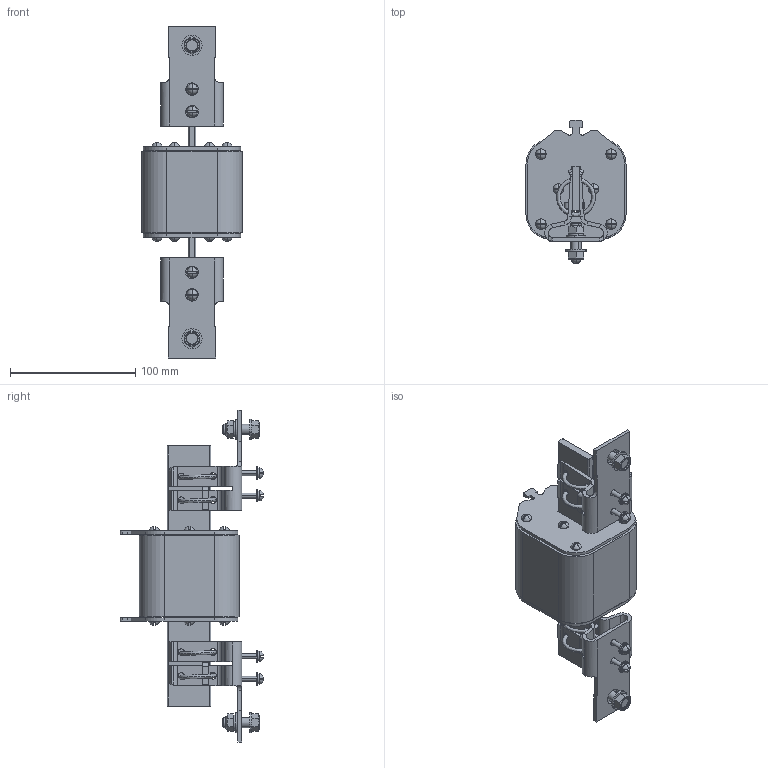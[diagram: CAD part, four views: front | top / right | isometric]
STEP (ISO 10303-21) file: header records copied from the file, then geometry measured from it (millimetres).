
FILE_DESCRIPTION (( 'STEP AP203' ), '1' );
FILE_NAME ('玵2-600.STEP', '2014-06-26T10:52:14', ( 'admin' ), ( 'Microsoft' ), 'SwSTEP 2.0', 'SolidWorks 2007', '' );
FILE_SCHEMA (( 'CONFIG_CONTROL_DESIGN' ));
Length unit declared in the file: millimetre
Products named in the file (1): 玵2-600
Bounding box: 80 x 114.45 x 265.5 mm (x, y, z)
Surface area: 108440.4 mm2 (no closed solid volume)
Topology: 0 solids, 65 shells, 638 faces, 1708 edges, 1130 vertices
Faces by surface type: plane 354, cylinder 196, bspline 36, sphere 32, cone 12, torus 8
Entity records: 22223 total; most frequent: CARTESIAN_POINT 6225, DIRECTION 3490, ORIENTED_EDGE 2974, EDGE_CURVE 1708, AXIS2_PLACEMENT_3D 1299, VERTEX_POINT 1130, VECTOR 892, LINE 892
